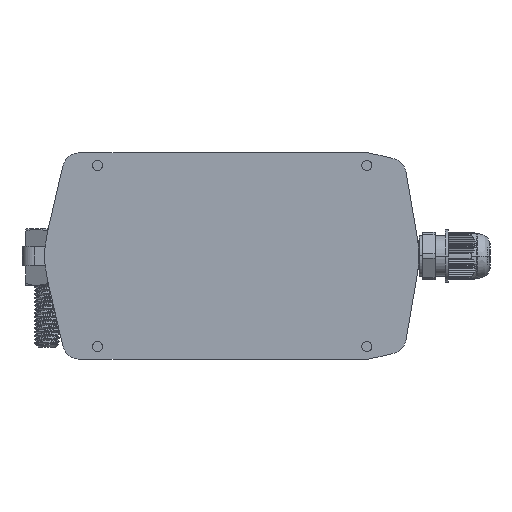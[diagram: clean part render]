
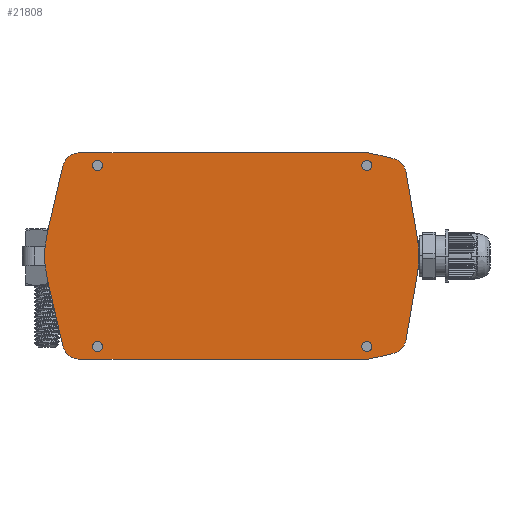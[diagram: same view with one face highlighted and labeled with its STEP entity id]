
A CAD part, left-side view. The second image highlights one B-rep face of the part: STEP entity #21808.
In plain terms, the highlighted planar face has unit normal (-1, 0, 0).
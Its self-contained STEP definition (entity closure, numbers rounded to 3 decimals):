
#521=DIRECTION('',(0.,1.,0.));
#522=VECTOR('',#521,114.);
#523=CARTESIAN_POINT('',(-73.4,-87.,41.));
#524=LINE('',#523,#522);
#787=DIRECTION('',(0.,-1.,0.));
#788=VECTOR('',#787,114.);
#789=CARTESIAN_POINT('',(-73.4,27.,-41.));
#790=LINE('',#789,#788);
#875=CARTESIAN_POINT('',(-73.4,0.,0.));
#876=DIRECTION('',(1.,0.,0.));
#877=DIRECTION('',(0.,0.974,-0.227));
#878=AXIS2_PLACEMENT_3D('',#875,#876,#877);
#880=DIRECTION('',(0.,-0.227,0.974));
#881=VECTOR('',#880,27.);
#882=CARTESIAN_POINT('',(-73.4,39.934,9.288));
#883=LINE('',#882,#881);
#884=CARTESIAN_POINT('',(-73.4,27.,34.));
#885=DIRECTION('',(1.,0.,0.));
#886=DIRECTION('',(0.,0.974,0.227));
#887=AXIS2_PLACEMENT_3D('',#884,#885,#886);
#889=CARTESIAN_POINT('',(-73.4,-87.,36.));
#890=DIRECTION('',(1.,0.,0.));
#891=DIRECTION('',(0.,0.,1.));
#892=AXIS2_PLACEMENT_3D('',#889,#890,#891);
#894=DIRECTION('',(0.,-0.976,-0.219));
#895=VECTOR('',#894,9.364);
#896=CARTESIAN_POINT('',(-73.4,-88.094,40.879));
#897=LINE('',#896,#895);
#898=CARTESIAN_POINT('',(-73.4,-95.7,32.));
#899=DIRECTION('',(1.,0.,0.));
#900=DIRECTION('',(0.,-0.219,0.976));
#901=AXIS2_PLACEMENT_3D('',#898,#899,#900);
#903=DIRECTION('',(0.,-0.169,-0.986));
#904=VECTOR('',#903,26.627);
#905=CARTESIAN_POINT('',(-73.4,-102.599,33.185));
#906=LINE('',#905,#904);
#907=CARTESIAN_POINT('',(-73.4,-66.7,0.));
#908=DIRECTION('',(1.,0.,0.));
#909=DIRECTION('',(0.,-0.986,0.169));
#910=AXIS2_PLACEMENT_3D('',#907,#908,#909);
#912=DIRECTION('',(0.,0.169,-0.986));
#913=VECTOR('',#912,26.627);
#914=CARTESIAN_POINT('',(-73.4,-107.108,-6.943));
#915=LINE('',#914,#913);
#916=CARTESIAN_POINT('',(-73.4,-95.7,-32.));
#917=DIRECTION('',(1.,0.,0.));
#918=DIRECTION('',(0.,-0.986,-0.169));
#919=AXIS2_PLACEMENT_3D('',#916,#917,#918);
#921=DIRECTION('',(0.,0.976,-0.219));
#922=VECTOR('',#921,9.364);
#923=CARTESIAN_POINT('',(-73.4,-97.231,-38.83));
#924=LINE('',#923,#922);
#925=CARTESIAN_POINT('',(-73.4,-87.,-36.));
#926=DIRECTION('',(1.,0.,0.));
#927=DIRECTION('',(0.,-0.219,-0.976));
#928=AXIS2_PLACEMENT_3D('',#925,#926,#927);
#930=CARTESIAN_POINT('',(-73.4,27.,-34.));
#931=DIRECTION('',(1.,0.,0.));
#932=DIRECTION('',(0.,0.,-1.));
#933=AXIS2_PLACEMENT_3D('',#930,#931,#932);
#935=DIRECTION('',(0.,0.227,0.974));
#936=VECTOR('',#935,27.);
#937=CARTESIAN_POINT('',(-73.4,33.818,-35.586));
#938=LINE('',#937,#936);
#939=CARTESIAN_POINT('',(-73.4,-87.,36.));
#940=DIRECTION('',(-1.,0.,0.));
#941=DIRECTION('',(0.,0.,1.));
#942=AXIS2_PLACEMENT_3D('',#939,#940,#941);
#944=CARTESIAN_POINT('',(-73.4,-87.,36.));
#945=DIRECTION('',(-1.,0.,0.));
#946=DIRECTION('',(0.,0.,-1.));
#947=AXIS2_PLACEMENT_3D('',#944,#945,#946);
#949=CARTESIAN_POINT('',(-73.4,-87.,-36.));
#950=DIRECTION('',(-1.,0.,0.));
#951=DIRECTION('',(0.,0.,1.));
#952=AXIS2_PLACEMENT_3D('',#949,#950,#951);
#954=CARTESIAN_POINT('',(-73.4,-87.,-36.));
#955=DIRECTION('',(-1.,0.,0.));
#956=DIRECTION('',(0.,0.,-1.));
#957=AXIS2_PLACEMENT_3D('',#954,#955,#956);
#959=CARTESIAN_POINT('',(-73.4,20.,36.));
#960=DIRECTION('',(-1.,0.,0.));
#961=DIRECTION('',(0.,0.,1.));
#962=AXIS2_PLACEMENT_3D('',#959,#960,#961);
#964=CARTESIAN_POINT('',(-73.4,20.,36.));
#965=DIRECTION('',(-1.,0.,0.));
#966=DIRECTION('',(0.,0.,-1.));
#967=AXIS2_PLACEMENT_3D('',#964,#965,#966);
#969=CARTESIAN_POINT('',(-73.4,20.,-36.));
#970=DIRECTION('',(-1.,0.,0.));
#971=DIRECTION('',(0.,0.,1.));
#972=AXIS2_PLACEMENT_3D('',#969,#970,#971);
#974=CARTESIAN_POINT('',(-73.4,20.,-36.));
#975=DIRECTION('',(-1.,0.,0.));
#976=DIRECTION('',(0.,0.,-1.));
#977=AXIS2_PLACEMENT_3D('',#974,#975,#976);
#19367=CARTESIAN_POINT('',(-73.4,39.934,-9.288));
#19368=CARTESIAN_POINT('',(-73.4,39.934,9.288));
#19369=VERTEX_POINT('',#19367);
#19370=VERTEX_POINT('',#19368);
#19371=CARTESIAN_POINT('',(-73.4,33.818,35.586));
#19372=VERTEX_POINT('',#19371);
#19373=CARTESIAN_POINT('',(-73.4,27.,41.));
#19374=VERTEX_POINT('',#19373);
#19375=CARTESIAN_POINT('',(-73.4,-87.,41.));
#19376=CARTESIAN_POINT('',(-73.4,-88.094,40.879));
#19377=VERTEX_POINT('',#19375);
#19378=VERTEX_POINT('',#19376);
#19379=CARTESIAN_POINT('',(-73.4,-97.231,38.83));
#19380=VERTEX_POINT('',#19379);
#19381=CARTESIAN_POINT('',(-73.4,-102.599,33.185));
#19382=VERTEX_POINT('',#19381);
#19383=CARTESIAN_POINT('',(-73.4,-107.108,6.943));
#19384=VERTEX_POINT('',#19383);
#19385=CARTESIAN_POINT('',(-73.4,-107.108,-6.943));
#19386=VERTEX_POINT('',#19385);
#19387=CARTESIAN_POINT('',(-73.4,-102.599,-33.185));
#19388=VERTEX_POINT('',#19387);
#19389=CARTESIAN_POINT('',(-73.4,-97.231,-38.83));
#19390=VERTEX_POINT('',#19389);
#19391=CARTESIAN_POINT('',(-73.4,-88.094,-40.879));
#19392=VERTEX_POINT('',#19391);
#19393=CARTESIAN_POINT('',(-73.4,-87.,-41.));
#19394=VERTEX_POINT('',#19393);
#19395=CARTESIAN_POINT('',(-73.4,27.,-41.));
#19396=CARTESIAN_POINT('',(-73.4,33.818,-35.586));
#19397=VERTEX_POINT('',#19395);
#19398=VERTEX_POINT('',#19396);
#19399=CARTESIAN_POINT('',(-73.4,-87.,38.));
#19400=CARTESIAN_POINT('',(-73.4,-87.,34.));
#19401=VERTEX_POINT('',#19399);
#19402=VERTEX_POINT('',#19400);
#19403=CARTESIAN_POINT('',(-73.4,-87.,-34.));
#19404=CARTESIAN_POINT('',(-73.4,-87.,-38.));
#19405=VERTEX_POINT('',#19403);
#19406=VERTEX_POINT('',#19404);
#19407=CARTESIAN_POINT('',(-73.4,20.,38.));
#19408=CARTESIAN_POINT('',(-73.4,20.,34.));
#19409=VERTEX_POINT('',#19407);
#19410=VERTEX_POINT('',#19408);
#19411=CARTESIAN_POINT('',(-73.4,20.,-34.));
#19412=CARTESIAN_POINT('',(-73.4,20.,-38.));
#19413=VERTEX_POINT('',#19411);
#19414=VERTEX_POINT('',#19412);
#21761=CARTESIAN_POINT('',(-73.4,-33.342,0.));
#21762=DIRECTION('',(1.,0.,0.));
#21763=DIRECTION('',(0.,0.,1.));
#21764=AXIS2_PLACEMENT_3D('',#21761,#21762,#21763);
#21765=PLANE('',#21764);
#21766=ORIENTED_EDGE('',*,*,#21334,.T.);
#21767=ORIENTED_EDGE('',*,*,#21365,.T.);
#21768=ORIENTED_EDGE('',*,*,#21391,.T.);
#21769=ORIENTED_EDGE('',*,*,#21417,.F.);
#21770=ORIENTED_EDGE('',*,*,#21443,.T.);
#21771=ORIENTED_EDGE('',*,*,#21469,.T.);
#21772=ORIENTED_EDGE('',*,*,#21495,.T.);
#21773=ORIENTED_EDGE('',*,*,#21521,.T.);
#21774=ORIENTED_EDGE('',*,*,#21547,.T.);
#21775=ORIENTED_EDGE('',*,*,#21593,.T.);
#21776=ORIENTED_EDGE('',*,*,#21619,.T.);
#21777=ORIENTED_EDGE('',*,*,#21645,.T.);
#21778=ORIENTED_EDGE('',*,*,#21671,.T.);
#21779=ORIENTED_EDGE('',*,*,#21697,.F.);
#21780=ORIENTED_EDGE('',*,*,#21723,.T.);
#21781=ORIENTED_EDGE('',*,*,#21747,.T.);
#21782=EDGE_LOOP('',(#21766,#21767,#21768,#21769,#21770,#21771,#21772,#21773,
#21774,#21775,#21776,#21777,#21778,#21779,#21780,#21781));
#21783=FACE_OUTER_BOUND('',#21782,.F.);
#21785=ORIENTED_EDGE('',*,*,#21784,.T.);
#21787=ORIENTED_EDGE('',*,*,#21786,.T.);
#21788=EDGE_LOOP('',(#21785,#21787));
#21789=FACE_BOUND('',#21788,.F.);
#21791=ORIENTED_EDGE('',*,*,#21790,.T.);
#21793=ORIENTED_EDGE('',*,*,#21792,.T.);
#21794=EDGE_LOOP('',(#21791,#21793));
#21795=FACE_BOUND('',#21794,.F.);
#21797=ORIENTED_EDGE('',*,*,#21796,.T.);
#21799=ORIENTED_EDGE('',*,*,#21798,.T.);
#21800=EDGE_LOOP('',(#21797,#21799));
#21801=FACE_BOUND('',#21800,.F.);
#21803=ORIENTED_EDGE('',*,*,#21802,.T.);
#21805=ORIENTED_EDGE('',*,*,#21804,.T.);
#21806=EDGE_LOOP('',(#21803,#21805));
#21807=FACE_BOUND('',#21806,.F.);
#21808=ADVANCED_FACE('',(#21783,#21789,#21795,#21801,#21807),#21765,.F.);
#879=CIRCLE('',#878,41.);
#888=CIRCLE('',#887,7.);
#893=CIRCLE('',#892,5.);
#902=CIRCLE('',#901,7.);
#911=CIRCLE('',#910,41.);
#920=CIRCLE('',#919,7.);
#929=CIRCLE('',#928,5.);
#934=CIRCLE('',#933,7.);
#943=CIRCLE('',#942,2.);
#948=CIRCLE('',#947,2.);
#953=CIRCLE('',#952,2.);
#958=CIRCLE('',#957,2.);
#963=CIRCLE('',#962,2.);
#968=CIRCLE('',#967,2.);
#973=CIRCLE('',#972,2.);
#978=CIRCLE('',#977,2.);
#21334=EDGE_CURVE('',#19369,#19370,#879,.T.);
#21365=EDGE_CURVE('',#19370,#19372,#883,.T.);
#21391=EDGE_CURVE('',#19372,#19374,#888,.T.);
#21417=EDGE_CURVE('',#19377,#19374,#524,.T.);
#21443=EDGE_CURVE('',#19377,#19378,#893,.T.);
#21469=EDGE_CURVE('',#19378,#19380,#897,.T.);
#21495=EDGE_CURVE('',#19380,#19382,#902,.T.);
#21521=EDGE_CURVE('',#19382,#19384,#906,.T.);
#21547=EDGE_CURVE('',#19384,#19386,#911,.T.);
#21593=EDGE_CURVE('',#19386,#19388,#915,.T.);
#21619=EDGE_CURVE('',#19388,#19390,#920,.T.);
#21645=EDGE_CURVE('',#19390,#19392,#924,.T.);
#21671=EDGE_CURVE('',#19392,#19394,#929,.T.);
#21697=EDGE_CURVE('',#19397,#19394,#790,.T.);
#21723=EDGE_CURVE('',#19397,#19398,#934,.T.);
#21747=EDGE_CURVE('',#19398,#19369,#938,.T.);
#21784=EDGE_CURVE('',#19401,#19402,#943,.T.);
#21786=EDGE_CURVE('',#19402,#19401,#948,.T.);
#21790=EDGE_CURVE('',#19405,#19406,#953,.T.);
#21792=EDGE_CURVE('',#19406,#19405,#958,.T.);
#21796=EDGE_CURVE('',#19409,#19410,#963,.T.);
#21798=EDGE_CURVE('',#19410,#19409,#968,.T.);
#21802=EDGE_CURVE('',#19413,#19414,#973,.T.);
#21804=EDGE_CURVE('',#19414,#19413,#978,.T.);
